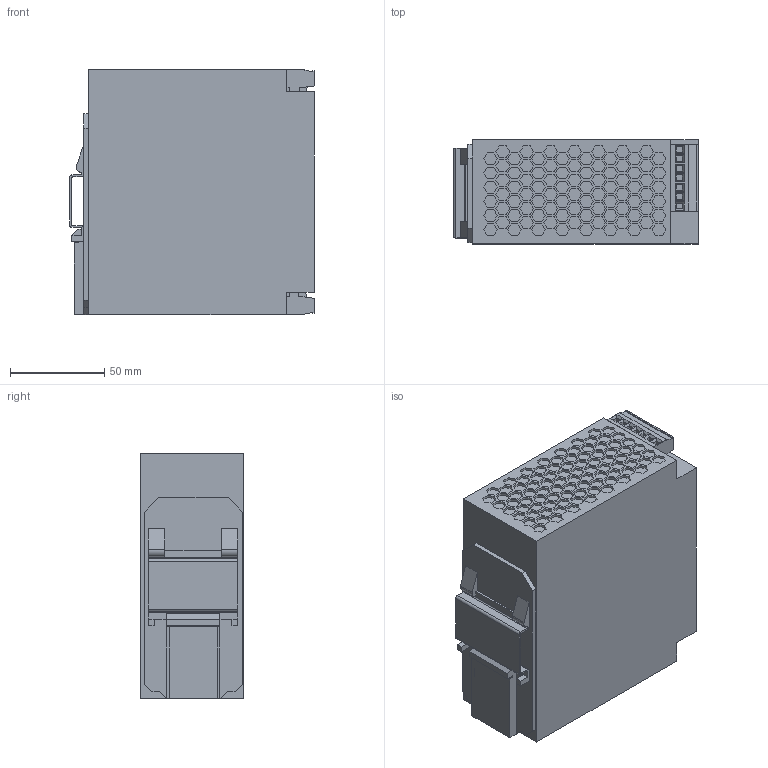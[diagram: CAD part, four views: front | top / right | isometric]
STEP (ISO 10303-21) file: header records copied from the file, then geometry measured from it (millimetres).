
FILE_DESCRIPTION((''),'2;1');
FILE_NAME('CU_POWER_SUPPLY_PS5','2007-08-17T',('jpearson'),(''),'PRO/ENGINEER BY PARAMETRIC TECHNOLOGY CORPORATION, 2006080','PRO/ENGINEER BY PARAMETRIC TECHNOLOGY CORPORATION, 2006080','');
FILE_SCHEMA(('CONFIG_CONTROL_DESIGN'));
Length unit declared in the file: inch
Products named in the file (1): CU_POWER_SUPPLY_PS5
Bounding box: 129.69 x 54.99 x 130.18 mm (x, y, z)
Volume: 854943.5 mm3; surface area: 73486.6 mm2
Topology: 1 solids, 3 shells, 1519 faces, 3899 edges, 2585 vertices
Faces by surface type: plane 1489, cylinder 30
Entity records: 45133 total; most frequent: CARTESIAN_POINT 8003, ORIENTED_EDGE 7798, DIRECTION 6997, EDGE_CURVE 3899, VECTOR 3839, LINE 3839, VERTEX_POINT 2585, EDGE_LOOP 1722
